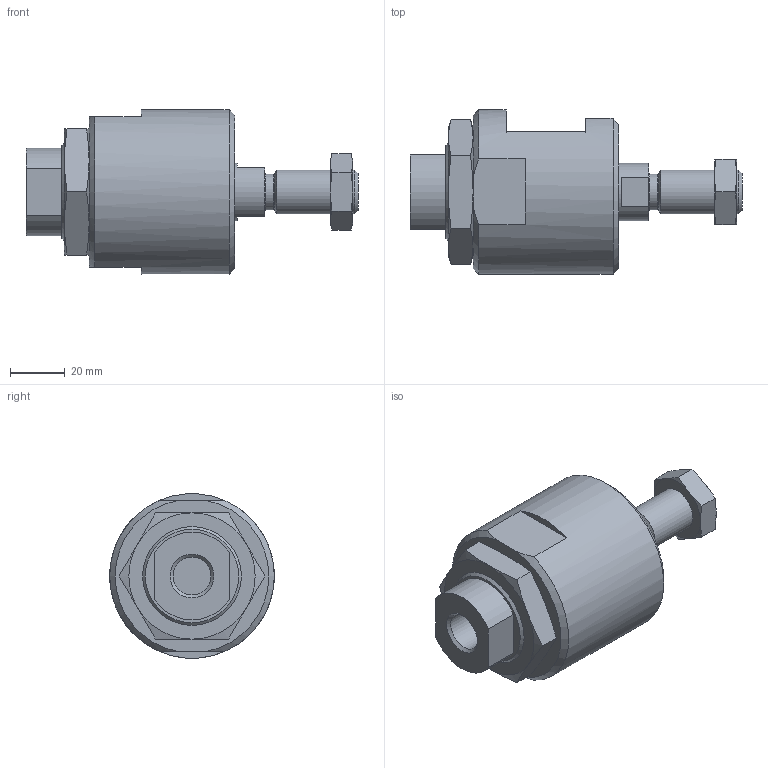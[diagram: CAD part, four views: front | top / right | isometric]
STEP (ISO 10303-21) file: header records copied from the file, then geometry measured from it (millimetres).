
FILE_DESCRIPTION( ( 'STEP AP203' ), '1' );
FILE_NAME( 'C:/Temp/Ganter_Step_05_03_2020/data/3_6/gn240_2/Rapid plug-in coupling GN 240.2-M16 (0).stp', '2020-03-12T14:08:25', ( 'License CC BY-ND 4.0' ), ( 'CADENAS' ), ' ', 'PARTsolutions', ' ' );
FILE_SCHEMA( ( 'CONFIG_CONTROL_DESIGN' ) );
Length unit declared in the file: millimetre
Products named in the file (4): Rapid plug-in coupling GN 240.2-M16 (0); _Rapid plug-in coupling GN 240.2-M16 (0)-1; _Rapid plug-in coupling GN 240.2-M16 (0)-5; _Rapid plug-in coupling GN 240.2-M16 (0)-4
Assembly tree (3 placements, depth 2):
  Rapid plug-in coupling GN 240.2-M16 (0)
    _Rapid plug-in coupling GN 240.2-M16 (0)-1
    _Rapid plug-in coupling GN 240.2-M16 (0)-5
    _Rapid plug-in coupling GN 240.2-M16 (0)-4
Bounding box: 121 x 60 x 59.86 mm (x, y, z)
Volume: 149530.9 mm3; surface area: 34588.5 mm2
Topology: 3 solids, 3 shells, 92 faces, 201 edges, 123 vertices
Faces by surface type: plane 42, cone 35, cylinder 12, torus 2, sphere 1
Full cylindrical faces by diameter (mm): 13 x1, 13.835 x2, 16 x1, 21 x1, 37.5 x2, 60 x1
Entity records: 2671 total; most frequent: CARTESIAN_POINT 657, DIRECTION 390, ORIENTED_EDGE 358, EDGE_CURVE 179, AXIS2_PLACEMENT_3D 169, EDGE_LOOP 123, VERTEX_POINT 120, FACE_OUTER_BOUND 103
